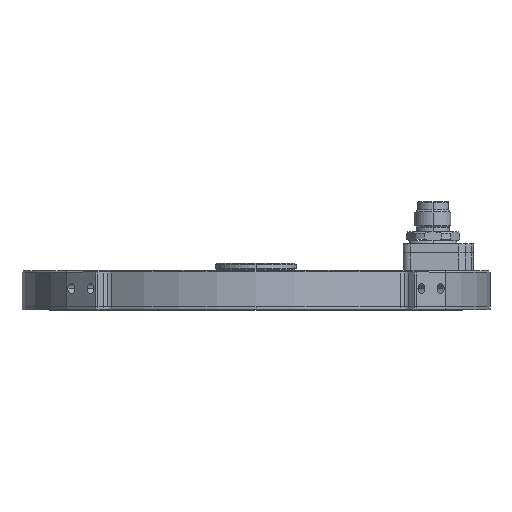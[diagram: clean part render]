
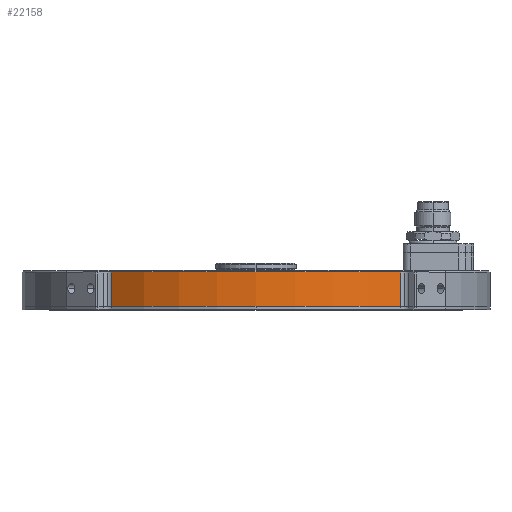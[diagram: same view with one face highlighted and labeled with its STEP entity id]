
A CAD part, top view. The second image highlights one B-rep face of the part: STEP entity #22158.
In plain terms, the highlighted cylindrical face has radius 78 mm (diameter 156 mm), a partial arc.
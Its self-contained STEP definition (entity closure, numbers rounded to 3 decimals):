
#5 = CIRCLE ( 'NONE', #20514, 78. ) ;
#753 = EDGE_CURVE ( 'NONE', #9491, #1815, #5, .T. ) ;
#893 = VECTOR ( 'NONE', #24283, 1000. ) ;
#1181 = VECTOR ( 'NONE', #2224, 1000. ) ;
#1815 = VERTEX_POINT ( 'NONE', #14873 ) ;
#2043 = CIRCLE ( 'NONE', #9243, 78. ) ;
#2224 = DIRECTION ( 'NONE',  ( 0., -1., 0. ) ) ;
#2817 = EDGE_CURVE ( 'NONE', #16693, #23174, #2043, .T. ) ;
#3634 = CARTESIAN_POINT ( 'NONE',  ( 0., 0., 0. ) ) ;
#4469 = CARTESIAN_POINT ( 'NONE',  ( 0., 12.5, 0. ) ) ;
#5144 = CARTESIAN_POINT ( 'NONE',  ( 0., 1., 0. ) ) ;
#5294 = ORIENTED_EDGE ( 'NONE', *, *, #6537, .T. ) ;
#6087 = CARTESIAN_POINT ( 'NONE',  ( -48.214, 0., 61.314 ) ) ;
#6202 = EDGE_CURVE ( 'NONE', #23174, #1815, #13462, .T. ) ;
#6326 = CYLINDRICAL_SURFACE ( 'NONE', #18240, 78. ) ;
#6537 = EDGE_CURVE ( 'NONE', #9491, #16693, #15540, .T. ) ;
#6954 = FACE_OUTER_BOUND ( 'NONE', #19054, .T. ) ;
#8582 = ORIENTED_EDGE ( 'NONE', *, *, #6202, .T. ) ;
#8818 = ORIENTED_EDGE ( 'NONE', *, *, #753, .F. ) ;
#9243 = AXIS2_PLACEMENT_3D ( 'NONE', #4469, #16095, #17862 ) ;
#9491 = VERTEX_POINT ( 'NONE', #9801 ) ;
#9801 = CARTESIAN_POINT ( 'NONE',  ( 48.214, 1., 61.314 ) ) ;
#11288 = DIRECTION ( 'NONE',  ( 0., 0., -1. ) ) ;
#12461 = DIRECTION ( 'NONE',  ( 0., 0., -1. ) ) ;
#13122 = CARTESIAN_POINT ( 'NONE',  ( 48.214, 0., 61.314 ) ) ;
#13462 = LINE ( 'NONE', #6087, #1181 ) ;
#14873 = CARTESIAN_POINT ( 'NONE',  ( -48.214, 1., 61.314 ) ) ;
#15540 = LINE ( 'NONE', #13122, #893 ) ;
#15640 = ORIENTED_EDGE ( 'NONE', *, *, #2817, .T. ) ;
#16095 = DIRECTION ( 'NONE',  ( 0., -1., 0. ) ) ;
#16693 = VERTEX_POINT ( 'NONE', #18807 ) ;
#16897 = CARTESIAN_POINT ( 'NONE',  ( -48.214, 12.5, 61.314 ) ) ;
#17862 = DIRECTION ( 'NONE',  ( 0., 0., -1. ) ) ;
#18240 = AXIS2_PLACEMENT_3D ( 'NONE', #3634, #19020, #11288 ) ;
#18807 = CARTESIAN_POINT ( 'NONE',  ( 48.214, 12.5, 61.314 ) ) ;
#19020 = DIRECTION ( 'NONE',  ( 0., -1., 0. ) ) ;
#19054 = EDGE_LOOP ( 'NONE', ( #5294, #15640, #8582, #8818 ) ) ;
#20514 = AXIS2_PLACEMENT_3D ( 'NONE', #5144, #21903, #12461 ) ;
#21903 = DIRECTION ( 'NONE',  ( 0., -1., 0. ) ) ;
#22158 = ADVANCED_FACE ( 'NONE', ( #6954 ), #6326, .T. ) ;
#23174 = VERTEX_POINT ( 'NONE', #16897 ) ;
#24283 = DIRECTION ( 'NONE',  ( 0., 1., 0. ) ) ;
